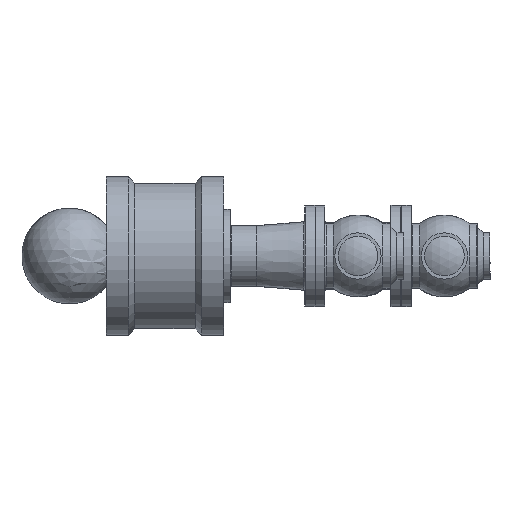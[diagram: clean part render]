
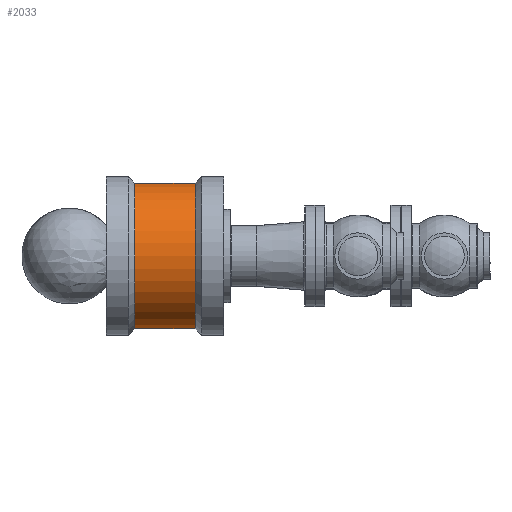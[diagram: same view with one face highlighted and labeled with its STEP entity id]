
A CAD part, left-side view. The second image highlights one B-rep face of the part: STEP entity #2033.
In plain terms, the highlighted cylindrical face has radius 110.5 mm (diameter 221 mm), a full revolution.
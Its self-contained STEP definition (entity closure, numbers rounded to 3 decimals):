
#202=LINE('',#3662,#258);
#258=VECTOR('',#2854,110.5);
#310=CYLINDRICAL_SURFACE('',#2372,110.5);
#408=FACE_OUTER_BOUND('',#536,.T.);
#536=EDGE_LOOP('',(#1516,#1517,#1518,#1519,#1520,#1521));
#713=CIRCLE('',#2370,110.5);
#714=CIRCLE('',#2371,110.5);
#715=CIRCLE('',#2373,110.5);
#716=CIRCLE('',#2374,110.5);
#940=VERTEX_POINT('',#3652);
#941=VERTEX_POINT('',#3653);
#942=VERTEX_POINT('',#3658);
#943=VERTEX_POINT('',#3659);
#1168=EDGE_CURVE('',#940,#941,#713,.T.);
#1169=EDGE_CURVE('',#941,#940,#714,.T.);
#1171=EDGE_CURVE('',#942,#943,#715,.T.);
#1172=EDGE_CURVE('',#943,#942,#716,.T.);
#1173=EDGE_CURVE('',#943,#941,#202,.T.);
#1516=ORIENTED_EDGE('',*,*,#1171,.F.);
#1517=ORIENTED_EDGE('',*,*,#1172,.F.);
#1518=ORIENTED_EDGE('',*,*,#1173,.T.);
#1519=ORIENTED_EDGE('',*,*,#1169,.T.);
#1520=ORIENTED_EDGE('',*,*,#1168,.T.);
#1521=ORIENTED_EDGE('',*,*,#1173,.F.);
#2033=ADVANCED_FACE('',(#408),#310,.T.);
#2370=AXIS2_PLACEMENT_3D('',#3654,#2843,#2844);
#2371=AXIS2_PLACEMENT_3D('',#3655,#2845,#2846);
#2372=AXIS2_PLACEMENT_3D('',#3657,#2848,#2849);
#2373=AXIS2_PLACEMENT_3D('',#3660,#2850,#2851);
#2374=AXIS2_PLACEMENT_3D('',#3661,#2852,#2853);
#2843=DIRECTION('center_axis',(-1.,0.,0.));
#2844=DIRECTION('ref_axis',(0.,0.,1.));
#2845=DIRECTION('center_axis',(-1.,0.,0.));
#2846=DIRECTION('ref_axis',(0.,0.,1.));
#2848=DIRECTION('center_axis',(-1.,0.,0.));
#2849=DIRECTION('ref_axis',(0.,0.,1.));
#2850=DIRECTION('center_axis',(-1.,0.,0.));
#2851=DIRECTION('ref_axis',(0.,0.,1.));
#2852=DIRECTION('center_axis',(-1.,0.,0.));
#2853=DIRECTION('ref_axis',(0.,0.,1.));
#2854=DIRECTION('',(1.,0.,0.));
#3652=CARTESIAN_POINT('',(-46.,0.,110.5));
#3653=CARTESIAN_POINT('',(-46.,0.,-110.5));
#3654=CARTESIAN_POINT('Origin',(-46.,0.,0.));
#3655=CARTESIAN_POINT('Origin',(-46.,0.,0.));
#3657=CARTESIAN_POINT('Origin',(-92.,0.,0.));
#3658=CARTESIAN_POINT('',(-138.,0.,110.5));
#3659=CARTESIAN_POINT('',(-138.,0.,-110.5));
#3660=CARTESIAN_POINT('Origin',(-138.,0.,0.));
#3661=CARTESIAN_POINT('Origin',(-138.,0.,0.));
#3662=CARTESIAN_POINT('',(-92.,0.,-110.5));
